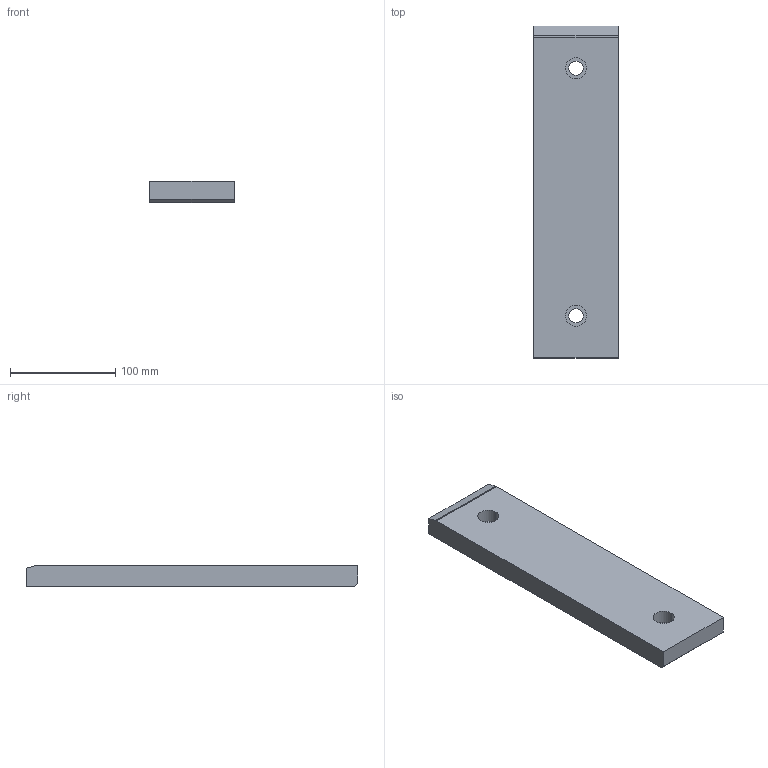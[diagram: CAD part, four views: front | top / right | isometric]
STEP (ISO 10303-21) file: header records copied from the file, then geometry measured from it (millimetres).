
FILE_DESCRIPTION (( 'STEP AP214' ), '1' );
FILE_NAME ('SW225-01-80x315.STEP', '2020-10-21T10:03:33', ( 'August' ), ( '' ), 'SwSTEP 2.0', 'SolidWorks 2018', '' );
FILE_SCHEMA (( 'AUTOMOTIVE_DESIGN' ));
Length unit declared in the file: millimetre
Products named in the file (1): SW225-01-80x315
Bounding box: 80 x 315 x 20 mm (x, y, z)
Volume: 492394.6 mm3; surface area: 67491.7 mm2
Topology: 1 solids, 1 shells, 19 faces, 45 edges, 30 vertices
Faces by surface type: plane 10, cylinder 9
Entity records: 599 total; most frequent: DIRECTION 103, CARTESIAN_POINT 95, ORIENTED_EDGE 90, EDGE_CURVE 45, AXIS2_PLACEMENT_3D 38, VERTEX_POINT 30, LINE 27, VECTOR 27
